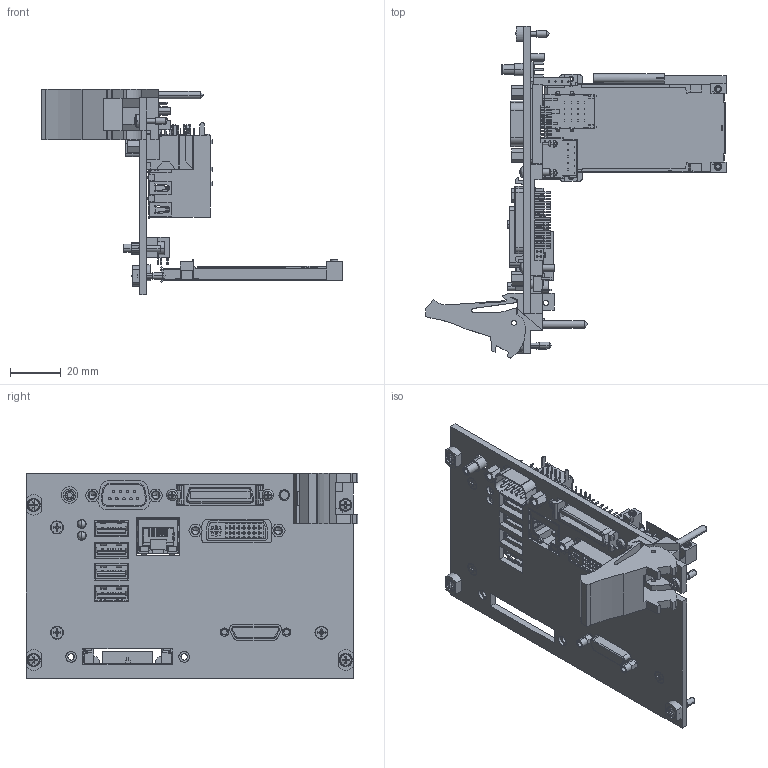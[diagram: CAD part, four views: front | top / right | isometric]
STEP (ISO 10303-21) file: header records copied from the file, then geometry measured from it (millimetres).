
FILE_DESCRIPTION((''),'2;1');
FILE_NAME('CU_PXI-8110','2013-10-18T',('talbott'),(''),'PRO/ENGINEER BY PARAMETRIC TECHNOLOGY CORPORATION, 2011490','PRO/ENGINEER BY PARAMETRIC TECHNOLOGY CORPORATION, 2011490','');
FILE_SCHEMA(('CONFIG_CONTROL_DESIGN'));
Products named in the file (1): CU_PXI-8110
Bounding box: 117.99 x 130.52 x 80.98 mm (x, y, z)
Volume: 53747.3 mm3; surface area: 55979 mm2
Topology: 12 solids, 12 shells, 3378 faces, 8690 edges, 5564 vertices
Faces by surface type: plane 2311, cylinder 841, cone 80, bspline 78, extrusion 28, torus 24, sphere 16
Entity records: 106117 total; most frequent: CARTESIAN_POINT 22730, ORIENTED_EDGE 17300, DIRECTION 16960, EDGE_CURVE 8650, VECTOR 6444, LINE 6416, VERTEX_POINT 5659, AXIS2_PLACEMENT_3D 5258
